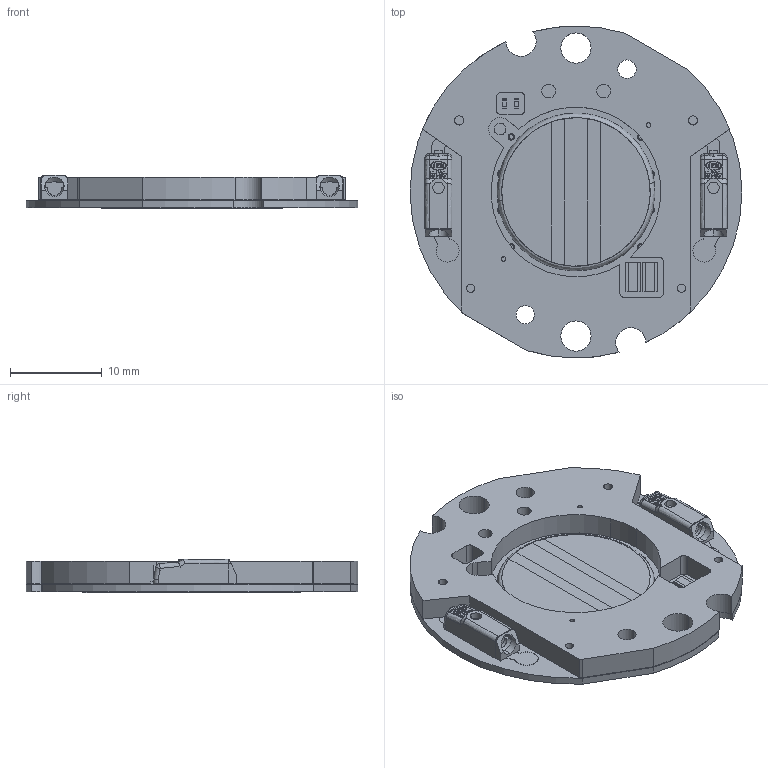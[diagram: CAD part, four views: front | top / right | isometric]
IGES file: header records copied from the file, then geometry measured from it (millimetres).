
Start section: SolidWorks IGES file using analytic representation for surfaces
Global section: file name: C:\Users\jiaqichen\Desktop\DW TW Holder-CoB\New folder\DW 15 Holder-CoB Assembly.IGS; native system: SolidWorks 2020; preprocessor: SolidWorks 2020; author: jiaqichen; date: 200814.174722; units: millimetre
Bounding box: 36.2 x 36.2 x 3.66 mm (x, y, z)
Volume: 2359.4 mm3; surface area: 4823.4 mm2
Topology: 2 solids, 2 shells, 836 faces, 2205 edges, 1445 vertices
Faces by surface type: plane 508, revolution 294, bspline 34
